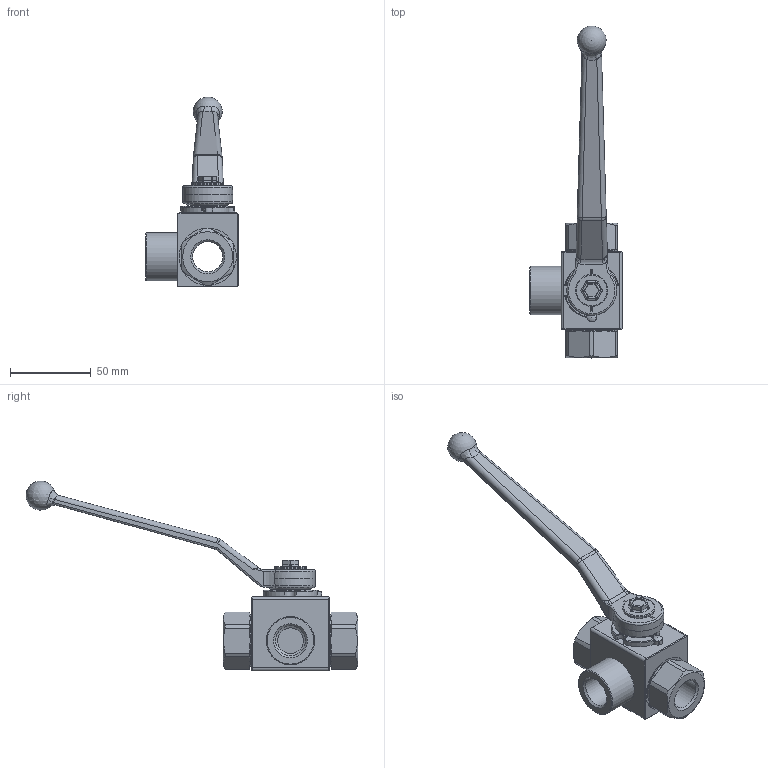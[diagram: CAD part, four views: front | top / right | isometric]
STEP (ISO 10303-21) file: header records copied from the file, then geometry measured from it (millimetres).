
FILE_DESCRIPTION( ( 'Unknown' ), '1' );
FILE_NAME( 'H:/PISTER/3D-MODELLE/BK3 stp/BK3 DN16 G1_2.stp', 'Unknown', ( 'Unknown' ), ( 'Unknown' ), 'PSStep 14.0', 'Unknown', ' ' );
FILE_SCHEMA( ( 'AUTOMOTIVE_DESIGN { 1 0 10303 214 1 1 1 1 }' ) );
Length unit declared in the file: millimetre
Products named in the file (11): Assem1; 10-016-001; 03-016-001-oa3; 04-016-054-oa4; 56-032-078-oa7; 09-12-001; 58-28740-05-oa8; Griff_SW12; 06-016-003-oa10; 01-016-012-oa11; 04-016-030-oa12
Assembly tree (10 placements, depth 2):
  Assem1
    10-016-001
    03-016-001-oa3
    04-016-054-oa4
    56-032-078-oa7
    09-12-001
    58-28740-05-oa8
    Griff_SW12
    06-016-003-oa10
    01-016-012-oa11
    04-016-030-oa12
Bounding box: 57.5 x 205.73 x 117.7 mm (x, y, z)
Volume: 70115.4 mm3; surface area: 44322.7 mm2
Topology: 10 solids, 10 shells, 373 faces, 933 edges, 565 vertices
Faces by surface type: plane 132, cylinder 130, torus 38, cone 31, bspline 25, sphere 17
Full cylindrical faces by diameter (mm): 4.917 x1, 5.98 x1, 6 x1, 6.5 x1, 16 x1, 18 x2, 18.2 x1, 18.63 x3, 20 x1, 21.8 x1, 29 x2, 30 x2, 32 x2, 35.5 x2
Entity records: 15271 total; most frequent: CARTESIAN_POINT 3672, DIRECTION 1819, ORIENTED_EDGE 1688, EDGE_CURVE 844, AXIS2_PLACEMENT_3D 738, VERTEX_POINT 544, EDGE_LOOP 444, FACE_OUTER_BOUND 401
